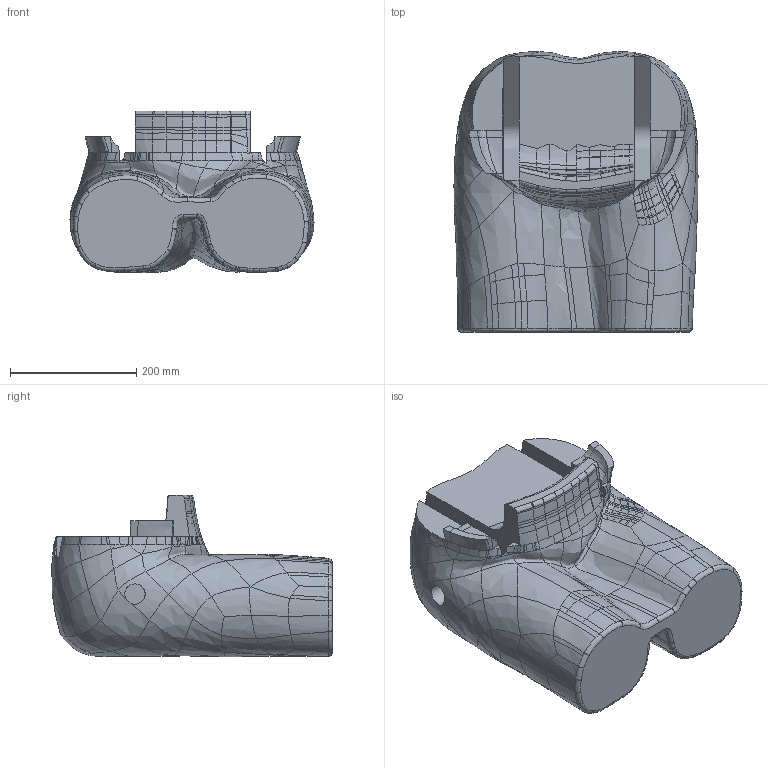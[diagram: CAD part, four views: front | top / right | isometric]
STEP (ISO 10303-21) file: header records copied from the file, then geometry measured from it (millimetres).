
FILE_DESCRIPTION(/* description */ (''),/* implementation_level */ '2;1');
FILE_NAME(/* name */ 'lowertorso (C).stp',/* time_stamp */ '2024-05-09T12:41:36-04:00',/* author */ ('Jim.Clevenger'),/* organization */ ('NHTSA/VRTC'),/* preprocessor_version */ 'ST-DEVELOPER v20',/* originating_system */ 'Autodesk Inventor 2024',/* authorisation */ '');
FILE_SCHEMA (('AUTOMOTIVE_DESIGN { 1 0 10303 214 3 1 1 }'));
Products named in the file (1): lowertorso (2nd Convert)
Bounding box: 386.74 x 444.49 x 256.61 mm (x, y, z)
Volume: 22921864.5 mm3; surface area: 649632.8 mm2
Topology: 1 solids, 1 shells, 706 faces, 1765 edges, 1052 vertices
Faces by surface type: bspline 642, plane 55, cylinder 9
Full cylindrical faces by diameter (mm): 32.297 x2
Entity records: 87633 total; most frequent: CARTESIAN_POINT 76133, ORIENTED_EDGE 3514, EDGE_CURVE 1757, B_SPLINE_CURVE_WITH_KNOTS 1611, VERTEX_POINT 1053, EDGE_LOOP 710, FACE_OUTER_BOUND 706, ADVANCED_FACE 706
